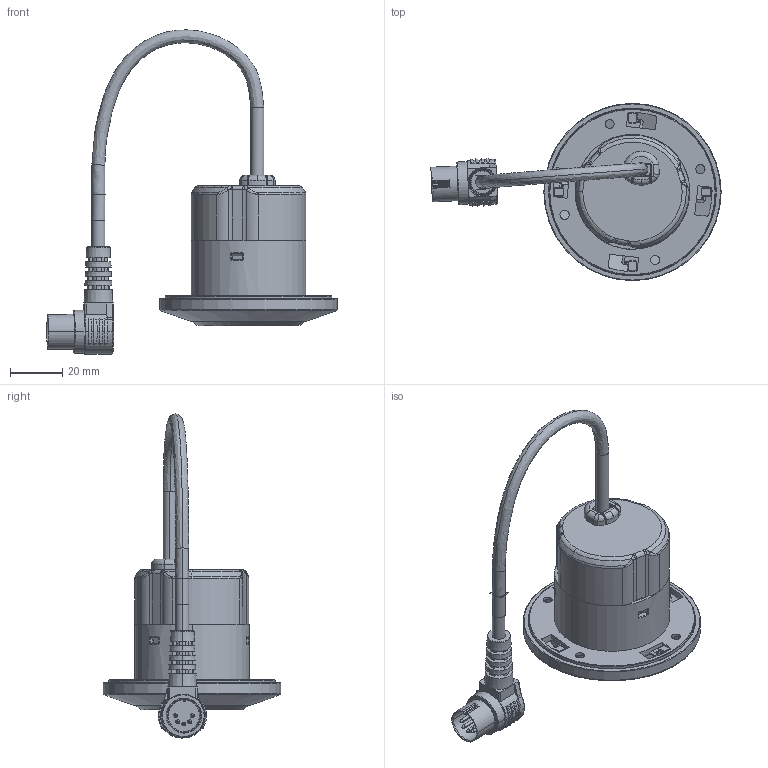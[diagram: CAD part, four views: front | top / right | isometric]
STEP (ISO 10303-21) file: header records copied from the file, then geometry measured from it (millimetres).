
FILE_DESCRIPTION (( 'STEP AP203' ), '1' );
FILE_NAME ('3D_TH19.STEP', '2017-07-07T04:26:56', ( '' ), ( '' ), 'SwSTEP 2.0', 'SolidWorks 2015', '' );
FILE_SCHEMA (( 'CONFIG_CONTROL_DESIGN' ));
Length unit declared in the file: millimetre
Products named in the file (1): 3D_TH19
Bounding box: 111.33 x 68 x 124.34 mm (x, y, z)
Surface area: 34157.7 mm2 (no closed solid volume)
Topology: 0 solids, 8 shells, 891 faces, 2208 edges, 1334 vertices
Faces by surface type: cylinder 299, plane 252, bspline 156, torus 103, cone 67, sphere 14
Entity records: 46699 total; most frequent: CARTESIAN_POINT 26853, ORIENTED_EDGE 4336, DIRECTION 3817, EDGE_CURVE 2170, AXIS2_PLACEMENT_3D 1474, VERTEX_POINT 1321, EDGE_LOOP 944, FACE_OUTER_BOUND 891
